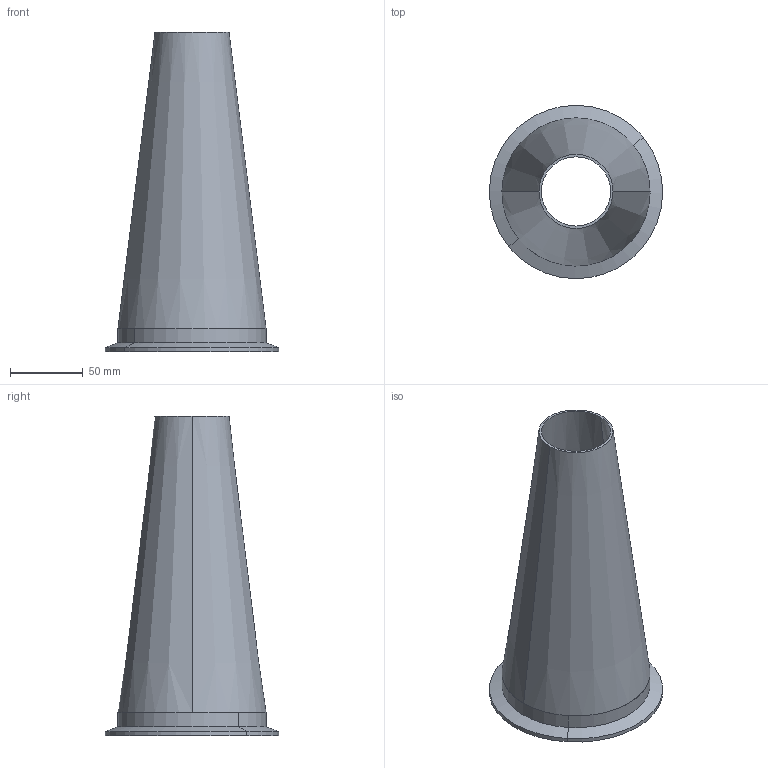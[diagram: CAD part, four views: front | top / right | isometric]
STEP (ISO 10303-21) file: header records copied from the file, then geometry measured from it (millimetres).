
FILE_DESCRIPTION (( 'STEP AP203' ), '1' );
FILE_NAME ('E31CW 4.0X2.0.STEP', '2021-10-18T18:56:46', ( '' ), ( '' ), 'SwSTEP 2.0', 'SolidWorks 2021', '' );
FILE_SCHEMA (( 'CONFIG_CONTROL_DESIGN' ));
Length unit declared in the file: inch
Products named in the file (3): E31WW4.0x2.0; E31CW 4.0X2.0; EG2CS4.0
Assembly tree (2 placements, depth 2):
  E31CW 4.0X2.0
    E31WW4.0x2.0
    EG2CS4.0
Bounding box: 118.91 x 118.91 x 219.07 mm (x, y, z)
Volume: 101955.1 mm3; surface area: 113600.3 mm2
Topology: 2 solids, 2 shells, 23 faces, 46 edges, 28 vertices
Faces by surface type: cone 6, cylinder 6, torus 6, plane 5
Entity records: 929 total; most frequent: DIRECTION 136, CARTESIAN_POINT 102, ORIENTED_EDGE 92, AXIS2_PLACEMENT_3D 62, EDGE_CURVE 46, CIRCLE 34, EDGE_LOOP 28, VERTEX_POINT 28
